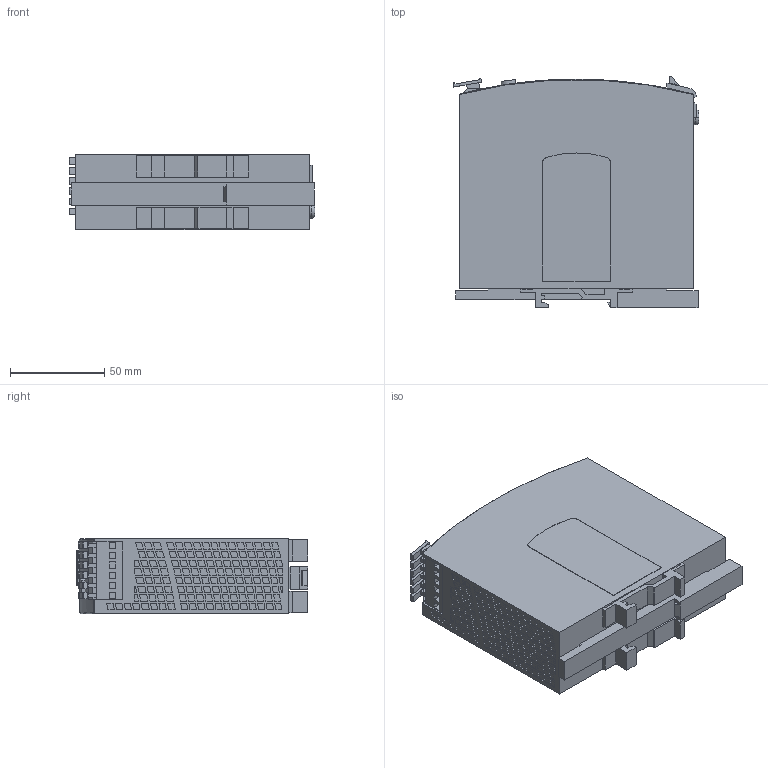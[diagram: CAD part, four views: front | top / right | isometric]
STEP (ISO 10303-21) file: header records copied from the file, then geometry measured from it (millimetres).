
FILE_DESCRIPTION((''),'2;1');
FILE_NAME('1606-XLS120E_SW0001','2007-03-27T',('abschult'),('Rockwell Automation'),'PRO/ENGINEER BY PARAMETRIC TECHNOLOGY CORPORATION, 2004320','PRO/ENGINEER BY PARAMETRIC TECHNOLOGY CORPORATION, 2004320','');
FILE_SCHEMA(('CONFIG_CONTROL_DESIGN'));
Length unit declared in the file: millimetre
Products named in the file (1): 1606-XLS120E_SW0001
Bounding box: 130.55 x 123.02 x 40.25 mm (x, y, z)
Surface area: 55692.6 mm2 (no closed solid volume)
Topology: 0 solids, 2 shells, 1718 faces, 4323 edges, 2874 vertices
Faces by surface type: plane 1401, cylinder 315, torus 2
Entity records: 51052 total; most frequent: CARTESIAN_POINT 9073, ORIENTED_EDGE 8502, DIRECTION 8404, EDGE_CURVE 4323, VECTOR 3634, LINE 3634, VERTEX_POINT 2874, AXIS2_PLACEMENT_3D 2385
